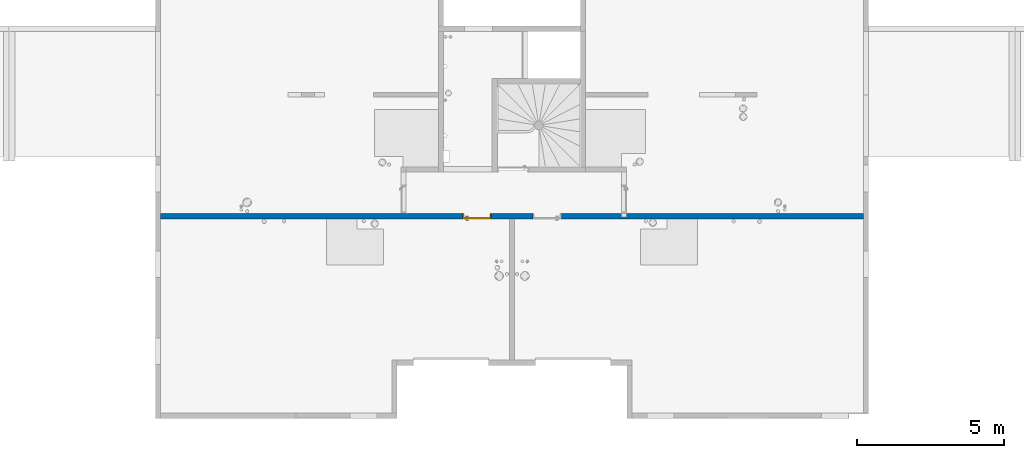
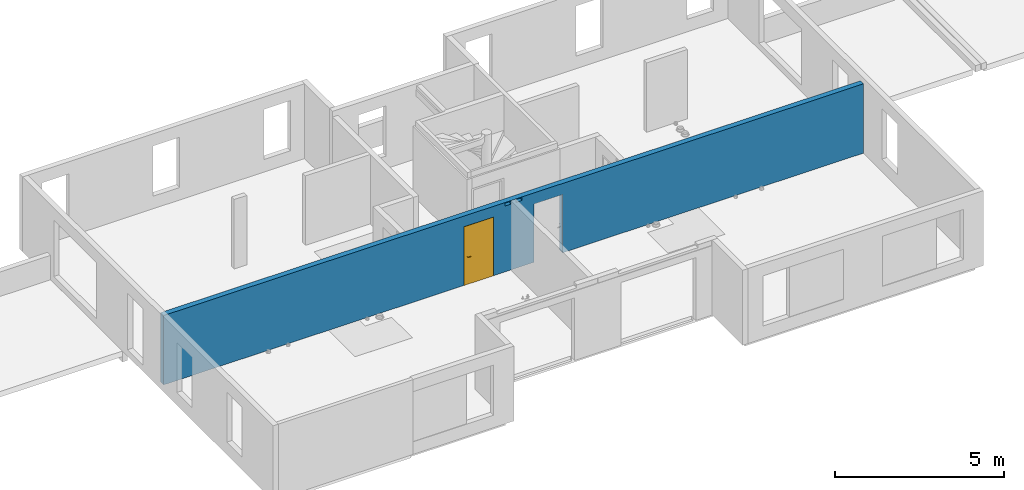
# One storey, part 8 of 24: 1 door, 1 wall, 6 openings.
"""IFC2X3 building model written with IfcOpenShell, lengths in centimetres."""

from ifc_helpers import new_model, entity, si_unit, converted_unit, derived_unit, direction, frame, frame_2d, origin, place, context, subcontext, project, spatial, rectangle, extrude, faceted_brep, source, transform, mapped, material, material_list, layer, layer_set, layer_usage, type_object, type_shapes, element, fill, save


model = new_model("IFC2X3")

# Units and contexts
model_context = context("Model", 3, precision=0.001, world=origin(), true_north=direction((6.12303176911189e-17, 1.0)))
body_context = subcontext(model_context, "Body", "Model", "MODEL_VIEW")
ifc_project = project(units=[si_unit("LENGTHUNIT", "METRE", prefix="CENTI"), si_unit("AREAUNIT", "SQUARE_METRE"), si_unit("VOLUMEUNIT", "CUBIC_METRE"), converted_unit("PLANEANGLEUNIT", "DEGREE", entity("IfcRatioMeasure", 0.0174532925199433), si_unit("PLANEANGLEUNIT", "RADIAN"), dimensions=[0, 0, 0, 0, 0, 0, 0]), si_unit("MASSUNIT", "GRAM", prefix="KILO"), derived_unit("MASSDENSITYUNIT", [(si_unit("MASSUNIT", "GRAM", prefix="KILO"), 1), (si_unit("LENGTHUNIT", "METRE"), -3)]), si_unit("TIMEUNIT", "SECOND"), si_unit("FREQUENCYUNIT", "HERTZ"), si_unit("THERMODYNAMICTEMPERATUREUNIT", "DEGREE_CELSIUS"), derived_unit("THERMALTRANSMITTANCEUNIT", [(si_unit("MASSUNIT", "GRAM", prefix="KILO"), 1), (si_unit("THERMODYNAMICTEMPERATUREUNIT", "KELVIN"), -1), (si_unit("TIMEUNIT", "SECOND"), -3)]), derived_unit("VOLUMETRICFLOWRATEUNIT", [(si_unit("LENGTHUNIT", "METRE"), 3), (si_unit("TIMEUNIT", "SECOND"), -1)]), si_unit("ELECTRICCURRENTUNIT", "AMPERE"), si_unit("ELECTRICVOLTAGEUNIT", "VOLT"), si_unit("POWERUNIT", "WATT"), si_unit("FORCEUNIT", "NEWTON"), si_unit("ILLUMINANCEUNIT", "LUX"), si_unit("LUMINOUSFLUXUNIT", "LUMEN"), si_unit("LUMINOUSINTENSITYUNIT", "CANDELA"), derived_unit("USERDEFINED", [(si_unit("MASSUNIT", "GRAM", prefix="KILO"), -1), (si_unit("LENGTHUNIT", "METRE"), -2), (si_unit("TIMEUNIT", "SECOND"), 3), (si_unit("LUMINOUSFLUXUNIT", "LUMEN"), 1)]), derived_unit("LINEARVELOCITYUNIT", [(si_unit("LENGTHUNIT", "METRE"), 1), (si_unit("TIMEUNIT", "SECOND"), -1)]), si_unit("PRESSUREUNIT", "PASCAL"), derived_unit("USERDEFINED", [(si_unit("LENGTHUNIT", "METRE"), -2), (si_unit("MASSUNIT", "GRAM", prefix="KILO"), 1), (si_unit("TIMEUNIT", "SECOND"), -2)])], contexts=[model_context])

# Site, building, storey
site_placement = place(None, origin())
site = spatial("IfcSite", under=ifc_project, at=site_placement, Name="Default", CompositionType="ELEMENT")
building_placement = place(site_placement, origin())
building = spatial("IfcBuilding", under=site, at=building_placement, Name="CAGE 03", CompositionType="ELEMENT")
storey_placement = place(building_placement, frame((0.0, 0.0, 880.0)))
storey = spatial("IfcBuildingStorey", under=building, at=storey_placement, Name="R+3", CompositionType="ELEMENT", Elevation=880.0)

# Wall, openings, door
ifc_material_1 = material(Name="Béton, C25/30")
ifc_layer = layer(ifc_material_1, 18.0)
ifc_layer_set = layer_set([ifc_layer], Name="Mur de base:Voile BA 18")
ifc_layer_usage = layer_usage(ifc_layer_set, "AXIS2", "NEGATIVE", 9.0)
wall_type = type_object("IfcWallType", Name="Mur de base:Voile BA 18", PredefinedType="STANDARD", material=ifc_layer_set)
wall_placement = place(storey_placement, frame((5888.36582014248, 4483.6606660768, 0.0)))
wall = element("IfcWallStandardCase", 1, at=wall_placement, inside=storey, type_object=wall_type, material=ifc_layer_usage, Name="Mur de base:Voile BA 18", ObjectType="Mur de base:Voile BA 18", context=body_context, shape_type="SweptSolid", body=[
    extrude(rectangle(XDim=2385.99999999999, YDim=17.9999999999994, at=frame_2d((1193.0, -8.88178419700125e-16), x_axis=(-1.0, 0.0))), origin(), (0.0, 0.0, 1.0), 250.0),
])
opening_1_placement = place(wall_placement, origin())
element("IfcOpeningElement", 2, at=opening_1_placement, cuts=wall, Name="Mur de base:Voile BA 18", ObjectType="Opening", context=body_context, shape_type="SweptSolid", body=[
    extrude(rectangle(XDim=210.000000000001, YDim=18.0000000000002, at=frame_2d((4.33431068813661e-13, 1.06581410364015e-13), x_axis=(0.0, 1.0))), frame((825.0, 9.0, 105.0), z_axis=(0.0, 1.0, 0.0), x_axis=(1.0, 0.0, 0.0)), (0.0, 0.0, 1.0), 96.9999999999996),
])
opening_2_placement = place(wall_placement, origin())
element("IfcOpeningElement", 3, at=opening_2_placement, cuts=wall, Name="Mur de base:Voile BA 18", ObjectType="Opening", context=body_context, shape_type="SweptSolid", body=[
    extrude(rectangle(XDim=210.000000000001, YDim=18.0000000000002, at=frame_2d((4.33431068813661e-13, 1.06581410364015e-13), x_axis=(0.0, 1.0))), frame((1573.0, 9.0, 105.0), z_axis=(0.0, 1.0, 0.0), x_axis=(1.0, 0.0, 0.0)), (0.0, 0.0, 1.0), 96.9999999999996),
])
opening_3_placement = place(wall_placement, origin())
element("IfcOpeningElement", 4, at=opening_3_placement, cuts=wall, Name="Mur de base:Voile BA 18", ObjectType="Opening", context=body_context, shape_type="SweptSolid", body=[
    extrude(rectangle(XDim=10.0000000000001, YDim=19.9999999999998, at=frame_2d((4.33431068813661e-13, 1.08357767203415e-13), x_axis=(0.0, 1.0))), frame((1174.0, -9.0, 242.5), z_axis=(0.0, 1.0, 0.0), x_axis=(1.0, 0.0, 0.0)), (0.0, 0.0, 1.0), 17.9999999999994),
])
opening_4_placement = place(wall_placement, origin())
element("IfcOpeningElement", 5, at=opening_4_placement, cuts=wall, Name="Mur de base:Voile BA 18", ObjectType="Opening", context=body_context, shape_type="SweptSolid", body=[
    extrude(rectangle(XDim=10.0000000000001, YDim=19.9999999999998, at=frame_2d((4.33431068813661e-13, 1.08357767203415e-13), x_axis=(0.0, 1.0))), frame((1212.0, -9.0, 242.5), z_axis=(0.0, 1.0, 0.0), x_axis=(1.0, 0.0, 0.0)), (0.0, 0.0, 1.0), 17.9999999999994),
])
opening_5_placement = place(wall_placement, frame((1122.5, 9.0, 0.0)))
opening_5 = element("IfcOpeningElement", 6, at=opening_5_placement, cuts=wall, Name="Int. Simple:HB93:1", ObjectType="Opening", context=body_context, shape_type="SweptSolid", body=[
    extrude(rectangle(XDim=210.000000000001, YDim=96.9999999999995, at=frame_2d((105.000000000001, 48.4999999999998), x_axis=(1.0, 0.0))), frame((0.0, 0.0, 0.0), z_axis=(0.0, -1.0, 0.0), x_axis=(0.0, 0.0, 1.0)), (0.0, 0.0, 1.0), 18.0),
])
opening_6_placement = place(wall_placement, frame((1360.5, 9.0, 0.0)))
element("IfcOpeningElement", 7, at=opening_6_placement, cuts=wall, Name="Int. Simple:HB93:1", ObjectType="Opening", context=body_context, shape_type="SweptSolid", body=[
    extrude(rectangle(XDim=210.000000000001, YDim=96.9999999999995, at=frame_2d((105.000000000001, 48.4999999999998), x_axis=(1.0, 0.0))), frame((0.0, 0.0, 0.0), z_axis=(0.0, -1.0, 0.0), x_axis=(0.0, 0.0, 1.0)), (0.0, 0.0, 1.0), 18.0),
])
ifc_material_2 = material(Name="Finition Peinture - Blanc satiné")
ifc_material_3 = material(Name="Bois - Panneau de porte")
ifc_material_4 = material(Name="Bois - Cadre de porte")
ifc_material_list_1 = material_list([ifc_material_2, ifc_material_3, ifc_material_4])
ifc_material_list_2 = material_list([ifc_material_2, ifc_material_3, ifc_material_4])
door_style = type_object("IfcDoorStyle", Name="HB93", ConstructionType="NOTDEFINED", OperationType="SINGLE_SWING_LEFT", ParameterTakesPrecedence=False, Sizeable=False, material=ifc_material_list_2)
shared_shape = source(origin(), body_context, "Body", "Brep", [
    faceted_brep([(10.5352761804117, -0.500000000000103, 86.6003983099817), (11.5000000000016, -0.500000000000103, 87.0), (11.5000000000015, -0.500000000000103, 108.0), (10.5352761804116, -0.500000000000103, 108.399601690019), (9.50000000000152, -0.500000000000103, 108.535898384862), (8.46472381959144, -0.500000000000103, 108.399601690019), (7.50000000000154, -0.500000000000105, 108.0), (7.50000000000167, -0.500000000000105, 87.0), (8.46472381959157, -0.500000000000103, 86.6003983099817), (9.50000000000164, -0.500000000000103, 86.464101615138), (10.5352761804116, 0.0, 108.399601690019), (11.5000000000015, 0.0, 108.0), (11.5000000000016, 0.0, 87.0), (10.5352761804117, 0.0, 86.6003983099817), (9.50000000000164, 0.0, 86.464101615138), (8.46472381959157, 0.0, 86.6003983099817), (7.50000000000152, 0.0, 87.0), (7.50000000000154, 0.0, 108.0), (8.46472381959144, 0.0, 108.399601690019), (9.50000000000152, 0.0, 108.535898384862)], [[[0, 1, 2, 3, 4, 5, 6, 7, 8, 9]], [[10, 11, 12, 13, 14, 15, 16, 17, 18, 19]], [[16, 15, 8, 7]], [[8, 15, 14, 9]], [[14, 13, 0, 9]], [[13, 12, 1, 0]], [[2, 1, 12, 11]], [[11, 10, 3, 2]], [[3, 10, 19, 4]], [[19, 18, 5, 4]], [[18, 17, 6, 5]], [[7, 6, 17, 16]]]),
    faceted_brep([(10.5352761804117, 4.0, 86.6003983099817), (11.5000000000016, 4.0, 87.0), (11.5000000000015, 4.0, 108.0), (10.5352761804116, 4.0, 108.399601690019), (9.50000000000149, 4.0, 108.535898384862), (8.46472381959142, 4.0, 108.399601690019), (7.50000000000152, 4.0, 108.0), (7.50000000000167, 4.0, 87.0), (8.46472381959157, 4.0, 86.6003983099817), (9.50000000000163, 4.0, 86.464101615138), (10.5352761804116, 4.49999999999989, 108.399601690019), (11.5000000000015, 4.4999999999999, 108.0), (11.5000000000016, 4.4999999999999, 87.0), (10.5352761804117, 4.49999999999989, 86.6003983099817), (9.50000000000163, 4.49999999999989, 86.464101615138), (8.46472381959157, 4.49999999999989, 86.6003983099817), (7.50000000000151, 4.49999999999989, 87.0), (7.50000000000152, 4.49999999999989, 108.0), (8.46472381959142, 4.49999999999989, 108.399601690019), (9.50000000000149, 4.49999999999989, 108.535898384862)], [[[0, 1, 2, 3, 4, 5, 6, 7, 8, 9]], [[10, 11, 12, 13, 14, 15, 16, 17, 18, 19]], [[11, 10, 3, 2]], [[3, 10, 19, 4]], [[19, 18, 5, 4]], [[18, 17, 6, 5]], [[7, 6, 17, 16]], [[16, 15, 8, 7]], [[8, 15, 14, 9]], [[14, 13, 0, 9]], [[13, 12, 1, 0]], [[2, 1, 12, 11]]]),
    faceted_brep([(9.29747013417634, -0.500000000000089, 100.778044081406), (9.70252986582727, -0.500000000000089, 100.778044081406), (10.1000000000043, -0.500000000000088, 100.699999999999), (10.1000000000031, -0.500000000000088, 99.3000000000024), (9.70252986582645, -0.500000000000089, 99.2219559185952), (9.29747013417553, -0.500000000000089, 99.221955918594), (8.89999999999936, -0.500000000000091, 99.2999999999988), (8.89999999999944, -0.500000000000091, 100.7), (8.89999999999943, -3.26509507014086, 100.7), (9.29747013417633, -3.10045754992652, 100.778044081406), (10.9023585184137, -4.70534593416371, 100.778044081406), (11.0701397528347, -4.30028620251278, 100.778044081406), (9.70252986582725, -2.93267631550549, 100.778044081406), (10.1000000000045, -2.76803879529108, 100.7), (10.1000000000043, -2.76803879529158, 99.3000000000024), (9.70252986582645, -2.93267631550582, 99.2219559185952), (11.0701397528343, -4.30028620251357, 99.2219559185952), (10.9023585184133, -4.70534593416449, 99.221955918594), (9.29747013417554, -3.10045754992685, 99.221955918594), (8.89999999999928, -3.26509507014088, 99.2999999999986), (10.7377209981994, -5.1028160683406, 100.7), (11.2347772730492, -3.90281606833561, 100.7), (11.2347772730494, -3.90281606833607, 99.3000000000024), (10.7377209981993, -5.10281606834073, 99.2999999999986), (19.5018640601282, -5.1028160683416, 99.2999999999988), (19.5018640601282, -4.70534593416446, 99.221955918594), (19.5018640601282, -4.30028620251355, 99.2219559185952), (19.5018640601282, -3.90281606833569, 99.3000000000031), (19.5018640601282, -3.90281606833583, 100.7), (19.5018640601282, -4.30028620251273, 100.778044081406), (19.5018640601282, -4.70534593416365, 100.778044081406), (19.5018640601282, -5.10281606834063, 100.699999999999), (14.7307697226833, -5.10281606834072, 100.7), (15.28600190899, -4.5028160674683, 100.78786867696), (15.3683206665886, -3.9028160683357, 100.7), (15.3683206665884, -3.90281606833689, 99.3000000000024), (15.2860018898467, -4.50281607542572, 99.2121313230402), (14.7307700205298, -5.10281606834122, 99.2999999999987)], [[[0, 1, 2, 3, 4, 5, 6, 7]], [[8, 9, 0, 7]], [[9, 10, 11, 12, 1, 0]], [[12, 13, 2, 1]], [[3, 2, 13, 14]], [[14, 15, 4, 3]], [[15, 16, 17, 18, 5, 4]], [[18, 19, 6, 5]], [[7, 6, 19, 8]], [[20, 10, 9, 8]], [[11, 21, 13, 12]], [[14, 13, 21, 22]], [[22, 16, 15, 14]], [[17, 23, 19, 18]], [[8, 19, 23, 20]], [[24, 25, 26, 27, 28, 29, 30, 31]], [[32, 30, 33]], [[31, 30, 32]], [[10, 20, 32]], [[33, 34, 11]], [[21, 11, 34]], [[34, 29, 28]], [[30, 29, 33]], [[29, 34, 33]], [[10, 32, 33]], [[10, 33, 11]], [[22, 21, 34, 28, 27, 35]], [[35, 26, 36]], [[37, 36, 25]], [[22, 35, 16]], [[35, 27, 26]], [[24, 37, 25]], [[23, 17, 37]], [[37, 17, 36]], [[17, 16, 36]], [[16, 35, 36]], [[25, 36, 26]], [[20, 23, 37, 24, 31, 32]]]),
    faceted_brep([(9.29747013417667, 4.49999999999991, 100.778044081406), (8.89999999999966, 4.49999999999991, 100.7), (8.89999999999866, 4.49999999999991, 99.2999999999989), (9.2974701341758, 4.49999999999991, 99.221955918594), (9.70252986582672, 4.49999999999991, 99.2219559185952), (10.1000000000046, 4.49999999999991, 99.3000000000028), (10.1000000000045, 4.49999999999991, 100.7), (9.70252986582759, 4.49999999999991, 100.778044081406), (10.1000000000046, 6.7485204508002, 99.3000000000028), (10.1000000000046, 6.74852045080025, 100.7), (9.70252986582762, 6.91315797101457, 100.778044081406), (11.0838906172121, 8.29451872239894, 100.778044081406), (10.9161093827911, 8.69957845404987, 100.778044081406), (9.29747013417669, 7.0809392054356, 100.778044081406), (8.89999999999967, 7.24557672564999, 100.7), (8.89999999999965, 7.24557672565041, 99.2999999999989), (9.29747013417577, 7.08093920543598, 99.221955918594), (10.9161093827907, 8.69957845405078, 99.221955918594), (11.0838906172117, 8.29451872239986, 99.2219559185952), (9.7025298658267, 6.91315797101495, 99.2219559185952), (11.2485281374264, 7.89704858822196, 99.3000000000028), (11.2485281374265, 7.89704858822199, 100.7), (10.7514718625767, 9.0970485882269, 100.7), (10.751471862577, 9.0970485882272, 99.2999999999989), (19.504578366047, 7.89704858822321, 99.3000000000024), (19.504578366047, 8.29451872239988, 99.2219559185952), (19.504578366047, 8.6995784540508, 99.221955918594), (19.504578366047, 9.09704858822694, 99.2999999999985), (19.504578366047, 9.09704858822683, 100.7), (19.504578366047, 8.69957845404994, 100.778044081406), (19.504578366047, 8.29451872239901, 100.778044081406), (19.504578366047, 7.89704858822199, 100.7), (15.3765520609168, 7.89704858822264, 99.3000000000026), (15.3765532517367, 7.89704858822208, 100.7), (15.294234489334, 8.49704858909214, 100.78786867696), (14.7445205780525, 9.09704858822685, 100.7), (14.7445204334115, 9.09704858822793, 99.2999999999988), (15.2942345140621, 8.49704858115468, 99.2121313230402)], [[[0, 1, 2, 3, 4, 5, 6, 7]], [[6, 5, 8, 9]], [[9, 10, 7, 6]], [[10, 11, 12, 13, 0, 7]], [[13, 14, 1, 0]], [[2, 1, 14, 15]], [[15, 16, 3, 2]], [[16, 17, 18, 19, 4, 3]], [[19, 8, 5, 4]], [[9, 8, 20, 21]], [[21, 11, 10, 9]], [[12, 22, 14, 13]], [[15, 14, 22, 23]], [[23, 17, 16, 15]], [[18, 20, 8, 19]], [[24, 25, 26, 27, 28, 29, 30, 31]], [[21, 20, 32, 24, 31, 33]], [[33, 30, 34]], [[35, 34, 29]], [[21, 33, 11]], [[33, 31, 30]], [[28, 35, 29]], [[22, 12, 35]], [[35, 12, 34]], [[12, 11, 34]], [[11, 33, 34]], [[29, 34, 30]], [[22, 35, 28, 27, 36, 23]], [[36, 26, 37]], [[27, 26, 36]], [[17, 23, 36]], [[37, 32, 18]], [[20, 18, 32]], [[32, 25, 24]], [[26, 25, 37]], [[25, 32, 37]], [[17, 36, 37]], [[17, 37, 18]]]),
    faceted_brep([(3.50000000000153, 4.0, 206.5), (93.5000000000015, 4.0, 206.5), (93.5000000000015, 4.0, 0.0), (3.50000000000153, 4.0, 0.0), (3.50000000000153, 0.0, 206.5), (3.50000000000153, 0.0, 0.0), (93.5000000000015, 0.0, 0.0), (93.5000000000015, 0.0, 206.5)], [[[0, 1, 2, 3]], [[4, 5, 6, 7]], [[1, 0, 4, 7]], [[2, 1, 7, 6]], [[3, 2, 6, 5]], [[0, 3, 5, 4]]]),
    faceted_brep([(0.0, 0.0, 0.0), (0.0, 18.0, 0.0), (5.0, 18.0, 0.0), (5.0, 4.0, 0.0), (3.50000000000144, 4.0, 0.0), (3.50000000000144, 0.0, 0.0), (0.0, 0.0, 210.0), (0.0, 18.0, 210.0), (97.0, 18.0, 210.0), (97.0, 18.0, 0.0), (92.0, 18.0, 0.0), (92.0, 18.0, 205.0), (5.0, 18.0, 205.0), (5.0, 4.0, 205.0), (92.0, 4.0, 205.0), (92.0, 4.0, 0.0), (93.4999999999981, 4.0, 0.0), (93.4999999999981, 4.0, 206.5), (3.50000000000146, 4.0, 206.5), (3.50000000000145, 0.0, 206.5), (93.4999999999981, 0.0, 206.5), (93.4999999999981, 0.0, 0.0), (97.0, 0.0, 0.0), (97.0, 0.0, 210.0)], [[[0, 1, 2, 3, 4, 5]], [[1, 0, 6, 7]], [[2, 1, 7, 8, 9, 10, 11, 12]], [[3, 2, 12, 13]], [[4, 3, 13, 14, 15, 16, 17, 18]], [[5, 4, 18, 19]], [[0, 5, 19, 20, 21, 22, 23, 6]], [[8, 23, 22, 9]], [[22, 21, 16, 15, 10, 9]], [[14, 11, 10, 15]], [[20, 17, 16, 21]], [[7, 6, 23, 8]], [[13, 12, 11, 14]], [[19, 18, 17, 20]]]),
    faceted_brep([(1.5, 18.0, 0.0), (-1.49999999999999, 18.0, 0.0), (-1.49999999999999, 18.5000000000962, 0.0), (1.5, 18.5000000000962, 0.0), (1.5, 18.0, 208.500000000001), (95.4999999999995, 18.0, 208.500000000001), (95.4999999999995, 18.0, 0.0), (98.4999999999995, 18.0, 0.0), (98.4999999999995, 18.0, 211.500000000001), (-1.49999999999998, 18.0, 211.500000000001), (-1.49999999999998, 18.5000000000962, 211.500000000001), (98.4999999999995, 18.5000000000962, 211.500000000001), (98.4999999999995, 18.5000000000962, 0.0), (95.4999999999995, 18.5000000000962, 0.0), (95.4999999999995, 18.5000000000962, 208.500000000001), (1.50000000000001, 18.5000000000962, 208.500000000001)], [[[0, 1, 2, 3]], [[1, 0, 4, 5, 6, 7, 8, 9]], [[2, 1, 9, 10]], [[3, 2, 10, 11, 12, 13, 14, 15]], [[0, 3, 15, 4]], [[6, 13, 12, 7]], [[5, 14, 13, 6]], [[11, 8, 7, 12]], [[10, 9, 8, 11]], [[4, 15, 14, 5]]]),
    faceted_brep([(-1.49999999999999, -0.5, 0.0), (1.5, -0.5, 0.0), (1.5, -0.5, 208.500000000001), (95.4999999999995, -0.5, 208.500000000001), (95.4999999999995, -0.5, 0.0), (98.4999999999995, -0.5, 0.0), (98.4999999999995, -0.5, 211.500000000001), (-1.49999999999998, -0.5, 211.500000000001), (-1.49999999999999, 0.0, 0.0), (-1.49999999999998, 0.0, 211.500000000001), (1.5, 0.0, 0.0), (98.4999999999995, 0.0, 211.500000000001), (98.4999999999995, 0.0, 0.0), (95.4999999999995, 0.0, 0.0), (95.4999999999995, 0.0, 208.500000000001), (1.50000000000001, 0.0, 208.500000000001)], [[[0, 1, 2, 3, 4, 5, 6, 7]], [[8, 0, 7, 9]], [[10, 8, 9, 11, 12, 13, 14, 15]], [[1, 10, 15, 2]], [[3, 14, 13, 4]], [[11, 6, 5, 12]], [[9, 7, 6, 11]], [[2, 15, 14, 3]], [[4, 13, 12, 5]], [[1, 0, 8, 10]]]),
])
type_shapes(door_style, [shared_shape])
door_placement = place(opening_5_placement, frame((-97.0, -18.0, 0.0)))
door = element("IfcDoor", 8, at=door_placement, inside=storey, type_object=door_style, material=ifc_material_list_1, Name="Int. Simple:HB93", ObjectType="HB93", OverallHeight=210.000000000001, OverallWidth=96.9999999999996, context=body_context, shape_type="MappedRepresentation", body=[
    mapped(shared_shape, transform((0.0, 0.0, 0.0), scale=1.0)),
])
fill(opening_5, door)

save(model, "model.ifc")
